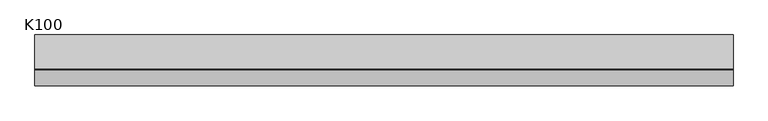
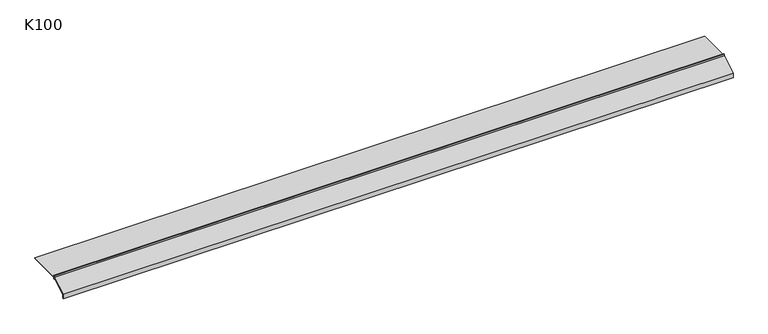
"""IFC4 building model written with IfcOpenShell, lengths in millimetres: proxy geometry, K100 Profil okapowy prosty : K100."""

from ifc_helpers import new_model, si_unit, frame, origin, place, context, project, spatial, polyline, outline, extrude, source, transform, mapped, element, save


def k100_88bf2ae9(model_context):
    return source(origin(), model_context, "Body", "SweptSolid", [
        extrude(outline(polyline([(0.0, -3.0), (0.0, 0.0), (1.25, 0.0), (1.25, -3.0), (66.25, -3.0), (66.25, -4.25), (1.25, -4.25), (1.25, -7.25), (0.0, -7.25), (0.0, -4.4598861), (-28.75, -21.8057194), (-28.75, -29.17), (-30.0, -30.42), (-30.0, -21.1), (0.0, -3.0)])), frame((0.0, 0.0, 0.0), z_axis=(1.0, 0.0, 0.0), x_axis=(0.0, 1.0, 0.0)), (0.0, 0.0, 1.0), 1319.8002884),
    ])


if __name__ == "__main__":
    model = new_model("IFC4")
    model_context = context("Model", 3, world=origin())
    ifc_project = project(units=[si_unit("LENGTHUNIT", "METRE", prefix="MILLI")], contexts=[model_context])
    site = spatial("IfcSite", under=ifc_project)
    building = spatial("IfcBuilding", under=site)
    placement = place(None, origin())
    k100_shape = k100_88bf2ae9(model_context)
    element("IfcBuildingElementProxy", 1, Name="K100 Profil okapowy prosty : K100", ObjectType="K100 Profil okapowy prosty : K100", at=placement, inside=building, context=model_context, shape_type="MappedRepresentation", body=[
        mapped(k100_shape, transform((0.0, 0.0, 0.0), x_axis=(1.0, 0.0, 0.0), y_axis=(0.0, 1.0, 0.0), z_axis=(0.0, 0.0, 1.0))),
    ])
    save(model, "model.ifc")
